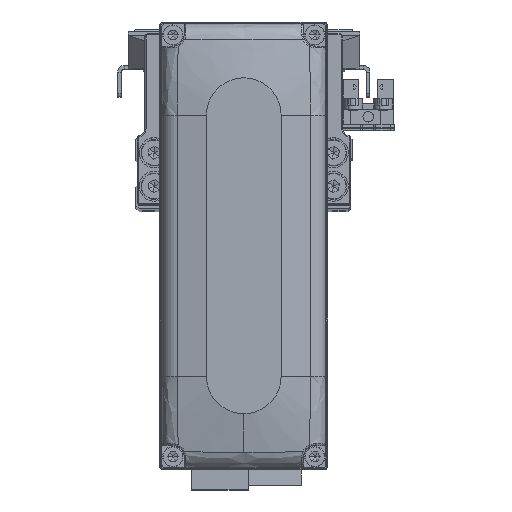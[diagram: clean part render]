
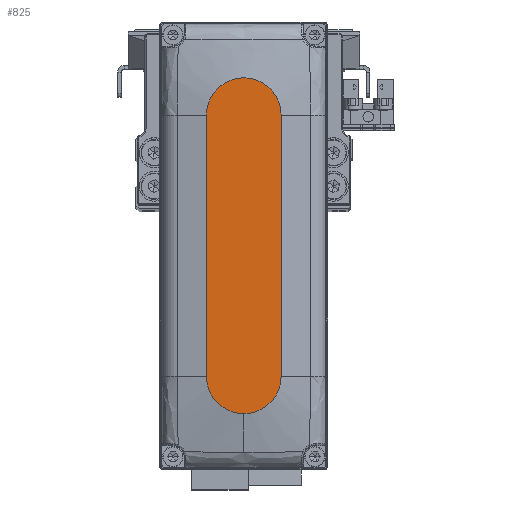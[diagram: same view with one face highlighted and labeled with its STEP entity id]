
A CAD part, top view. The second image highlights one B-rep face of the part: STEP entity #825.
In plain terms, the highlighted planar face has unit normal (0, 0, 1).
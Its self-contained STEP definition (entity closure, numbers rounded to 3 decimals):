
#455 = CIRCLE ( 'NONE', #24689, 10. ) ;
#532 = LINE ( 'NONE', #13776, #25118 ) ;
#825 = ADVANCED_FACE ( 'NONE', ( #36950 ), #7295, .T. ) ;
#1195 = DIRECTION ( 'NONE',  ( 0., 0., 1. ) ) ;
#2418 = EDGE_CURVE ( 'NONE', #18805, #14157, #455, .T. ) ;
#3719 = VERTEX_POINT ( 'NONE', #34315 ) ;
#4054 = DIRECTION ( 'NONE',  ( 1., 0., 0. ) ) ;
#5082 = VERTEX_POINT ( 'NONE', #18809 ) ;
#6026 = DIRECTION ( 'NONE',  ( 1., 0., 0. ) ) ;
#7295 = PLANE ( 'NONE',  #30933 ) ;
#8433 = DIRECTION ( 'NONE',  ( 1., 0., 0. ) ) ;
#11089 = CARTESIAN_POINT ( 'NONE',  ( 35., 0., 28. ) ) ;
#12468 = ORIENTED_EDGE ( 'NONE', *, *, #21285, .T. ) ;
#13206 = CIRCLE ( 'NONE', #37387, 10. ) ;
#13776 = CARTESIAN_POINT ( 'NONE',  ( -35., 10., 28. ) ) ;
#14142 = AXIS2_PLACEMENT_3D ( 'NONE', #22503, #35673, #6026 ) ;
#14157 = VERTEX_POINT ( 'NONE', #25910 ) ;
#14224 = ORIENTED_EDGE ( 'NONE', *, *, #22983, .T. ) ;
#14432 = DIRECTION ( 'NONE',  ( 1., 0., 0. ) ) ;
#15944 = ORIENTED_EDGE ( 'NONE', *, *, #2418, .T. ) ;
#17333 = VERTEX_POINT ( 'NONE', #37101 ) ;
#18805 = VERTEX_POINT ( 'NONE', #38316 ) ;
#18809 = CARTESIAN_POINT ( 'NONE',  ( 35., 10., 28. ) ) ;
#19732 = VECTOR ( 'NONE', #8433, 1000. ) ;
#20519 = CARTESIAN_POINT ( 'NONE',  ( 0., 0., 28. ) ) ;
#20653 = EDGE_CURVE ( 'NONE', #17333, #5082, #32772, .T. ) ;
#21285 = EDGE_CURVE ( 'NONE', #5082, #18805, #532, .T. ) ;
#22404 = EDGE_CURVE ( 'NONE', #3719, #17333, #13206, .T. ) ;
#22503 = CARTESIAN_POINT ( 'NONE',  ( 35., 0., 28. ) ) ;
#22983 = EDGE_CURVE ( 'NONE', #14157, #3719, #24904, .T. ) ;
#24283 = DIRECTION ( 'NONE',  ( 0., 0., 1. ) ) ;
#24689 = AXIS2_PLACEMENT_3D ( 'NONE', #30846, #1195, #14432 ) ;
#24904 = LINE ( 'NONE', #38082, #19732 ) ;
#25118 = VECTOR ( 'NONE', #26966, 1000. ) ;
#25910 = CARTESIAN_POINT ( 'NONE',  ( -35., -10., 28. ) ) ;
#25911 = ORIENTED_EDGE ( 'NONE', *, *, #22404, .T. ) ;
#26133 = ORIENTED_EDGE ( 'NONE', *, *, #20653, .T. ) ;
#26966 = DIRECTION ( 'NONE',  ( -1., 0., 0. ) ) ;
#30846 = CARTESIAN_POINT ( 'NONE',  ( -35., 0., 28. ) ) ;
#30933 = AXIS2_PLACEMENT_3D ( 'NONE', #20519, #33699, #4054 ) ;
#32772 = CIRCLE ( 'NONE', #14142, 10. ) ;
#33699 = DIRECTION ( 'NONE',  ( 0., 0., 1. ) ) ;
#34315 = CARTESIAN_POINT ( 'NONE',  ( 35., -10., 28. ) ) ;
#35673 = DIRECTION ( 'NONE',  ( 0., 0., 1. ) ) ;
#36950 = FACE_OUTER_BOUND ( 'NONE', #39909, .T. ) ;
#37101 = CARTESIAN_POINT ( 'NONE',  ( 45., 0., 28. ) ) ;
#37387 = AXIS2_PLACEMENT_3D ( 'NONE', #11089, #24283, #37462 ) ;
#37462 = DIRECTION ( 'NONE',  ( 1., 0., 0. ) ) ;
#38082 = CARTESIAN_POINT ( 'NONE',  ( -35., -10., 28. ) ) ;
#38316 = CARTESIAN_POINT ( 'NONE',  ( -35., 10., 28. ) ) ;
#39909 = EDGE_LOOP ( 'NONE', ( #12468, #15944, #14224, #25911, #26133 ) ) ;
